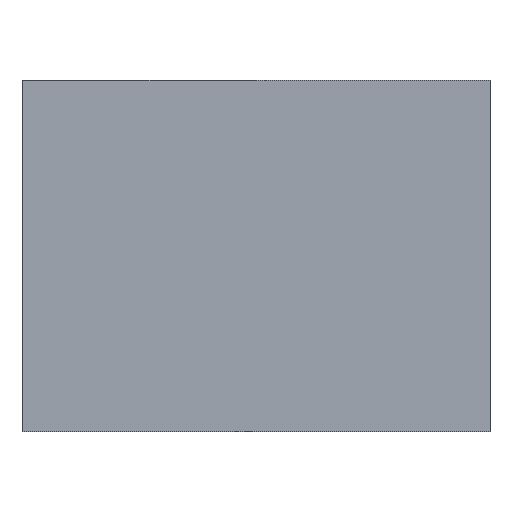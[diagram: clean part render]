
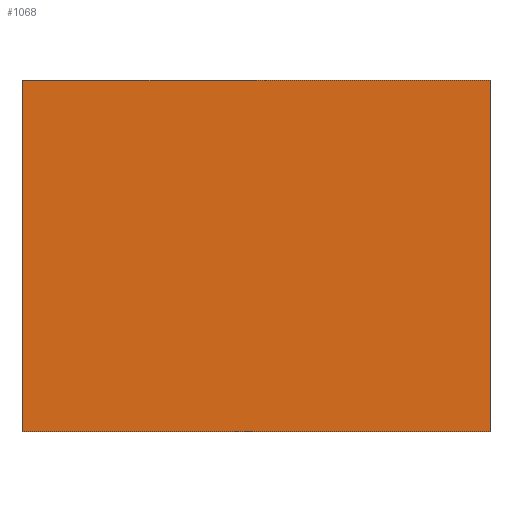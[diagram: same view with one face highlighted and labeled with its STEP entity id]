
A CAD part, front view. The second image highlights one B-rep face of the part: STEP entity #1068.
In plain terms, the highlighted planar face has unit normal (0, -1, 0).
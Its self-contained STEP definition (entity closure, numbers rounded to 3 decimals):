
#101 = CARTESIAN_POINT ( 'NONE',  ( 80., 0., 60. ) ) ;
#146 = CARTESIAN_POINT ( 'NONE',  ( 80., 0., -60. ) ) ;
#192 = LINE ( 'NONE', #266, #1064 ) ;
#200 = ORIENTED_EDGE ( 'NONE', *, *, #1377, .F. ) ;
#229 = EDGE_LOOP ( 'NONE', ( #200, #2044, #1592, #1073 ) ) ;
#236 = FACE_OUTER_BOUND ( 'NONE', #229, .T. ) ;
#266 = CARTESIAN_POINT ( 'NONE',  ( -80., 0., -60. ) ) ;
#365 = LINE ( 'NONE', #418, #1290 ) ;
#418 = CARTESIAN_POINT ( 'NONE',  ( -80., 0., 60. ) ) ;
#437 = DIRECTION ( 'NONE',  ( -1., 0., 0. ) ) ;
#456 = EDGE_CURVE ( 'NONE', #2253, #2299, #365, .T. ) ;
#493 = PLANE ( 'NONE',  #2015 ) ;
#595 = DIRECTION ( 'NONE',  ( 0., 0., 1. ) ) ;
#668 = CARTESIAN_POINT ( 'NONE',  ( -80., 0., -60. ) ) ;
#673 = VECTOR ( 'NONE', #595, 1000. ) ;
#675 = DIRECTION ( 'NONE',  ( 0., 1., 0. ) ) ;
#761 = EDGE_CURVE ( 'NONE', #1395, #1773, #192, .T. ) ;
#1004 = CARTESIAN_POINT ( 'NONE',  ( 80., 0., -60. ) ) ;
#1064 = VECTOR ( 'NONE', #437, 1000. ) ;
#1068 = ADVANCED_FACE ( 'NONE', ( #236 ), #493, .F. ) ;
#1072 = VECTOR ( 'NONE', #1232, 1000. ) ;
#1073 = ORIENTED_EDGE ( 'NONE', *, *, #761, .F. ) ;
#1188 = EDGE_CURVE ( 'NONE', #1773, #2253, #2126, .T. ) ;
#1232 = DIRECTION ( 'NONE',  ( 0., 0., -1. ) ) ;
#1290 = VECTOR ( 'NONE', #1317, 1000. ) ;
#1317 = DIRECTION ( 'NONE',  ( 1., 0., 0. ) ) ;
#1377 = EDGE_CURVE ( 'NONE', #2299, #1395, #1644, .T. ) ;
#1395 = VERTEX_POINT ( 'NONE', #146 ) ;
#1592 = ORIENTED_EDGE ( 'NONE', *, *, #1188, .F. ) ;
#1644 = LINE ( 'NONE', #1004, #1072 ) ;
#1701 = CARTESIAN_POINT ( 'NONE',  ( -80., 0., -60. ) ) ;
#1773 = VERTEX_POINT ( 'NONE', #668 ) ;
#1944 = DIRECTION ( 'NONE',  ( 0., 0., 1. ) ) ;
#2015 = AXIS2_PLACEMENT_3D ( 'NONE', #2302, #675, #1944 ) ;
#2044 = ORIENTED_EDGE ( 'NONE', *, *, #456, .F. ) ;
#2075 = CARTESIAN_POINT ( 'NONE',  ( -80., 0., 60. ) ) ;
#2126 = LINE ( 'NONE', #1701, #673 ) ;
#2253 = VERTEX_POINT ( 'NONE', #2075 ) ;
#2299 = VERTEX_POINT ( 'NONE', #101 ) ;
#2302 = CARTESIAN_POINT ( 'NONE',  ( 0., 0., 0. ) ) ;
